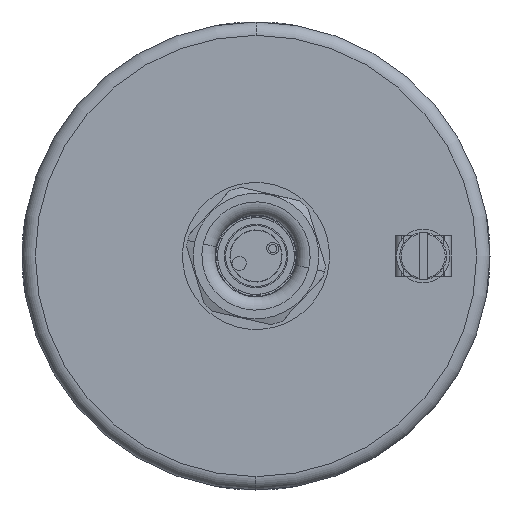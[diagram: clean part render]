
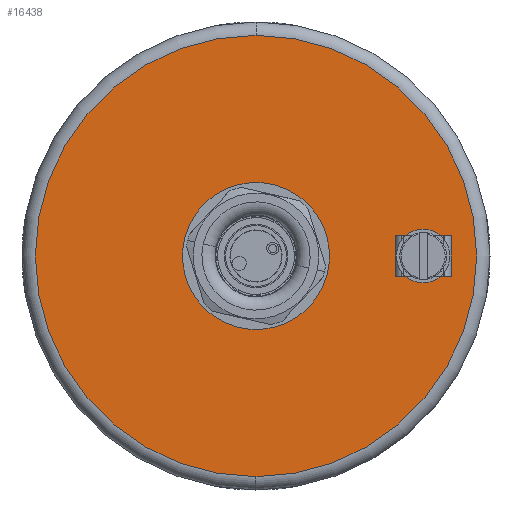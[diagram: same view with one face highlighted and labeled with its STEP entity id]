
A CAD part, left-side view. The second image highlights one B-rep face of the part: STEP entity #16438.
In plain terms, the highlighted planar face has unit normal (-1, 0, 0).
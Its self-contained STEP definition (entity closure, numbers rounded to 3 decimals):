
#7 = CARTESIAN_POINT ( 'NONE',  ( -70.2, 0., -8.25 ) ) ;
#728 = FACE_OUTER_BOUND ( 'NONE', #14714, .T. ) ;
#1402 = DIRECTION ( 'NONE',  ( 1., 0., 0. ) ) ;
#1475 = EDGE_LOOP ( 'NONE', ( #17265, #5420 ) ) ;
#1730 = CARTESIAN_POINT ( 'NONE',  ( -70.2, 0., 8.25 ) ) ;
#2339 = CIRCLE ( 'NONE', #4378, 2.675 ) ;
#2600 = VERTEX_POINT ( 'NONE', #6600 ) ;
#2735 = CARTESIAN_POINT ( 'NONE',  ( -70.2, 0., 0. ) ) ;
#3164 = DIRECTION ( 'NONE',  ( -1., 0., 0. ) ) ;
#3473 = EDGE_CURVE ( 'NONE', #2600, #10809, #17633, .T. ) ;
#3933 = CIRCLE ( 'NONE', #18576, 8.25 ) ;
#4378 = AXIS2_PLACEMENT_3D ( 'NONE', #17050, #3164, #19329 ) ;
#4550 = CARTESIAN_POINT ( 'NONE',  ( -70.2, 33., 0. ) ) ;
#5082 = DIRECTION ( 'NONE',  ( 0., 0., 1. ) ) ;
#5192 = EDGE_CURVE ( 'NONE', #17698, #26336, #2339, .T. ) ;
#5420 = ORIENTED_EDGE ( 'NONE', *, *, #27149, .F. ) ;
#5821 = AXIS2_PLACEMENT_3D ( 'NONE', #4550, #6907, #23031 ) ;
#6600 = CARTESIAN_POINT ( 'NONE',  ( -70.2, 0., -33. ) ) ;
#6907 = DIRECTION ( 'NONE',  ( 1., 0., 0. ) ) ;
#7337 = DIRECTION ( 'NONE',  ( 1., 0., 0. ) ) ;
#7768 = CARTESIAN_POINT ( 'NONE',  ( -70.2, 0., 0. ) ) ;
#7929 = CARTESIAN_POINT ( 'NONE',  ( -70.2, -25., 0. ) ) ;
#8748 = CIRCLE ( 'NONE', #8774, 8.25 ) ;
#8774 = AXIS2_PLACEMENT_3D ( 'NONE', #7768, #23896, #10096 ) ;
#9335 = EDGE_CURVE ( 'NONE', #10809, #2600, #27878, .T. ) ;
#10096 = DIRECTION ( 'NONE',  ( 0., 0., 1. ) ) ;
#10245 = DIRECTION ( 'NONE',  ( 0., 0., 1. ) ) ;
#10487 = ORIENTED_EDGE ( 'NONE', *, *, #9335, .F. ) ;
#10809 = VERTEX_POINT ( 'NONE', #20242 ) ;
#12562 = VERTEX_POINT ( 'NONE', #1730 ) ;
#13047 = FACE_BOUND ( 'NONE', #28102, .T. ) ;
#13057 = AXIS2_PLACEMENT_3D ( 'NONE', #21153, #7337, #23460 ) ;
#13769 = AXIS2_PLACEMENT_3D ( 'NONE', #15287, #1402, #17634 ) ;
#14285 = AXIS2_PLACEMENT_3D ( 'NONE', #7929, #24046, #10245 ) ;
#14714 = EDGE_LOOP ( 'NONE', ( #14879, #10487 ) ) ;
#14879 = ORIENTED_EDGE ( 'NONE', *, *, #3473, .F. ) ;
#15287 = CARTESIAN_POINT ( 'NONE',  ( -70.2, 0., 0. ) ) ;
#16438 = ADVANCED_FACE ( 'NONE', ( #13047, #18478, #728 ), #20716, .F. ) ;
#17050 = CARTESIAN_POINT ( 'NONE',  ( -70.2, -25., 0. ) ) ;
#17071 = CIRCLE ( 'NONE', #14285, 2.675 ) ;
#17265 = ORIENTED_EDGE ( 'NONE', *, *, #25180, .F. ) ;
#17633 = CIRCLE ( 'NONE', #13057, 33. ) ;
#17634 = DIRECTION ( 'NONE',  ( 0., 0., -1. ) ) ;
#17698 = VERTEX_POINT ( 'NONE', #21472 ) ;
#18478 = FACE_BOUND ( 'NONE', #1475, .T. ) ;
#18576 = AXIS2_PLACEMENT_3D ( 'NONE', #2735, #18911, #5082 ) ;
#18911 = DIRECTION ( 'NONE',  ( -1., 0., 0. ) ) ;
#19329 = DIRECTION ( 'NONE',  ( 0., 0., 1. ) ) ;
#19842 = ORIENTED_EDGE ( 'NONE', *, *, #23678, .F. ) ;
#20242 = CARTESIAN_POINT ( 'NONE',  ( -70.2, 0., 33. ) ) ;
#20716 = PLANE ( 'NONE',  #5821 ) ;
#21153 = CARTESIAN_POINT ( 'NONE',  ( -70.2, 0., 0. ) ) ;
#21472 = CARTESIAN_POINT ( 'NONE',  ( -70.2, -25., 2.675 ) ) ;
#22844 = CARTESIAN_POINT ( 'NONE',  ( -70.2, -25., -2.675 ) ) ;
#23031 = DIRECTION ( 'NONE',  ( 0., 0., -1. ) ) ;
#23460 = DIRECTION ( 'NONE',  ( 0., 0., -1. ) ) ;
#23678 = EDGE_CURVE ( 'NONE', #26336, #17698, #17071, .T. ) ;
#23896 = DIRECTION ( 'NONE',  ( -1., 0., 0. ) ) ;
#24046 = DIRECTION ( 'NONE',  ( -1., 0., 0. ) ) ;
#25180 = EDGE_CURVE ( 'NONE', #12562, #27428, #3933, .T. ) ;
#25495 = ORIENTED_EDGE ( 'NONE', *, *, #5192, .F. ) ;
#26336 = VERTEX_POINT ( 'NONE', #22844 ) ;
#27149 = EDGE_CURVE ( 'NONE', #27428, #12562, #8748, .T. ) ;
#27428 = VERTEX_POINT ( 'NONE', #7 ) ;
#27878 = CIRCLE ( 'NONE', #13769, 33. ) ;
#28102 = EDGE_LOOP ( 'NONE', ( #25495, #19842 ) ) ;
